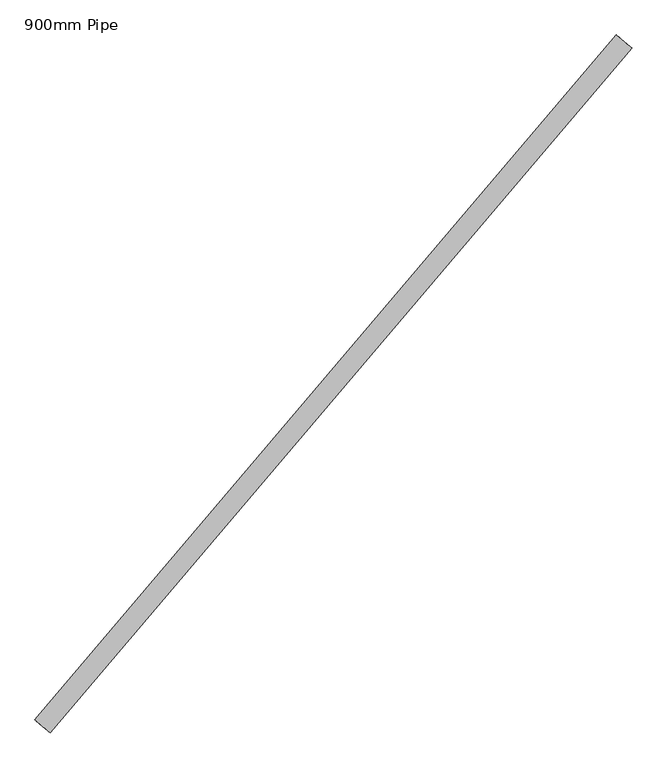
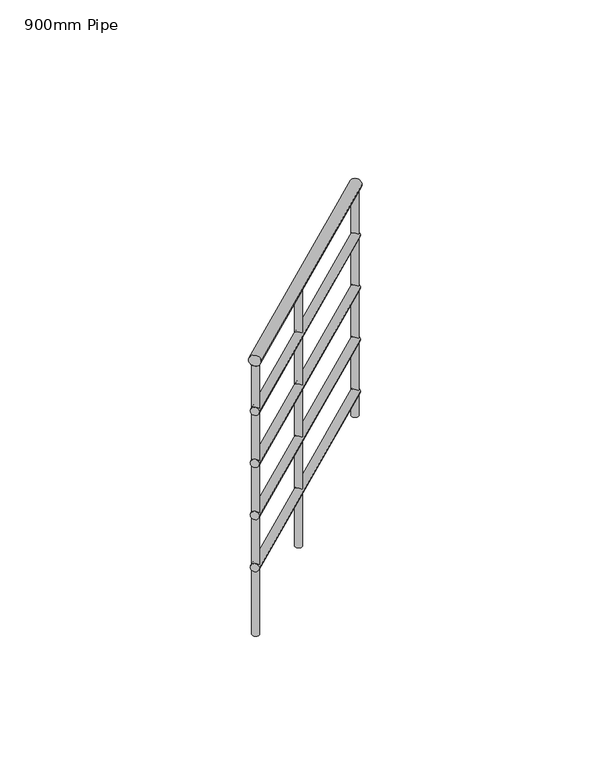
"""IFC4 building model written with IfcOpenShell, lengths in millimetres: railing geometry, 900mm Pipe."""

import ifcopenshell
import ifcopenshell.guid

model = None  # the IFC model being written
_history = None  # IfcOwnerHistory: only IFC2X3 demands one
_inside = {}  # id of a spatial element -> (the spatial element, [elements in it])
_under = {}  # id of a project, library or spatial element -> (it, [spatial elements below it])
_declared = {}  # id of a project -> (the project, [libraries it declares])
_typed = {}  # id of a type object -> (the type object, [elements of that type])
_made_of = {}  # id of a material, layer set ... -> (it, [elements and type objects made of it])


def new_model(schema):
    """Start an empty IFC model of exactly this schema.

    Asked for "IFC4X3", IfcOpenShell would pick the latest addendum, in which some entities
    have other attributes; the version numbers below select the first issue.
    IFC2X3 requires an IfcOwnerHistory on every rooted entity: one is made here for all.
    """
    global model, _history
    if schema == "IFC4X3":
        model = ifcopenshell.file(schema_version=(4, 3, 0, 0))
    else:
        model = ifcopenshell.file(schema=schema)
    _inside.clear()
    _under.clear()
    _declared.clear()
    _typed.clear()
    _made_of.clear()
    _history = None
    if model.schema == "IFC2X3":
        org = make("IfcOrganization", Name="unknown")
        user = make(
            "IfcPersonAndOrganization",
            ThePerson=make("IfcPerson", FamilyName="unknown"),
            TheOrganization=org,
        )
        app = make(
            "IfcApplication",
            ApplicationDeveloper=org,
            Version="unknown",
            ApplicationFullName="unknown",
            ApplicationIdentifier="unknown",
        )
        _history = make(
            "IfcOwnerHistory",
            OwningUser=user,
            OwningApplication=app,
            ChangeAction="ADDED",
            CreationDate=0,
        )
    return model


def make(cls, **values):
    """One entity of the class cls with the attributes given. An attribute that is None is left unset."""
    return model.create_entity(
        cls, **{name: value for name, value in values.items() if value is not None}
    )


def rooted(cls, **values):
    """An entity with a GlobalId (a new one), such as an element, a storey or a relation."""
    return make(cls, GlobalId=ifcopenshell.guid.new(), OwnerHistory=_history, **values)


def si_unit(unit_type, name, prefix=None):
    """IfcSIUnit, for example si_unit("LENGTHUNIT", "METRE", prefix="MILLI")."""
    return make("IfcSIUnit", UnitType=unit_type, Prefix=prefix, Name=name)


def assignment(units):
    """IfcUnitAssignment: the units of a project."""
    return None if units is None else make("IfcUnitAssignment", Units=units)


def point(xyz):
    """IfcCartesianPoint."""
    return None if xyz is None else make("IfcCartesianPoint", Coordinates=xyz)


def direction(xyz):
    """IfcDirection."""
    return None if xyz is None else make("IfcDirection", DirectionRatios=xyz)


def frame(location, z_axis=None, x_axis=None):
    """IfcAxis2Placement3D, a coordinate frame: its origin and axes. An axis left out is left unset."""
    return make(
        "IfcAxis2Placement3D",
        Location=point(location),
        Axis=direction(z_axis),
        RefDirection=direction(x_axis),
    )


def origin():
    """The frame at (0, 0, 0) with its axes left unset."""
    return frame((0.0, 0.0, 0.0))


def place(relative_to, where):
    """IfcLocalPlacement: puts the frame where relative to a parent placement (None: the world)."""
    return make(
        "IfcLocalPlacement", PlacementRelTo=relative_to, RelativePlacement=where
    )


def context(
    kind, dimensions, precision=None, world=None, true_north=None, identifier=None
):
    """IfcGeometricRepresentationContext, for example the 3D "Model" context."""
    return make(
        "IfcGeometricRepresentationContext",
        ContextIdentifier=identifier,
        ContextType=kind,
        CoordinateSpaceDimension=dimensions,
        Precision=precision,
        WorldCoordinateSystem=world,
        TrueNorth=true_north,
    )


def project(units=None, contexts=None):
    """IfcProject with its units and contexts."""
    return rooted(
        "IfcProject",
        Name="project",
        RepresentationContexts=contexts,
        UnitsInContext=assignment(units),
    )


def spatial(cls, under=None, at=None, **own):
    """A site, building, storey or space (cls), placed at a placement, below another one or the project."""
    s = rooted(cls, ObjectPlacement=at, **own)
    if under is not None:
        _under.setdefault(under.id(), (under, []))[1].append(s)
    return s


def circle_curve(where, radius):
    """IfcCircle in the frame where."""
    return make("IfcCircle", Position=where, Radius=radius)


def ellipse_curve(where, semi_axis1, semi_axis2):
    """IfcEllipse in the frame where."""
    return make(
        "IfcEllipse", Position=where, SemiAxis1=semi_axis1, SemiAxis2=semi_axis2
    )


def shape(context_of_items, identifier, shape_type, items):
    """IfcShapeRepresentation: the items that make up one representation, for example the "Body"."""
    return make(
        "IfcShapeRepresentation",
        ContextOfItems=context_of_items,
        RepresentationIdentifier=identifier,
        RepresentationType=shape_type,
        Items=items,
    )


def source(mapping_origin, context_of_items, identifier, shape_type, items):
    """IfcRepresentationMap: a shape defined once, which mapped items show again and again."""
    return make(
        "IfcRepresentationMap",
        MappingOrigin=mapping_origin,
        MappedRepresentation=shape(context_of_items, identifier, shape_type, items),
    )


def transform(
    local_origin,
    x_axis=None,
    y_axis=None,
    z_axis=None,
    scale=None,
    scale2=None,
    scale3=None,
    uniform=True,
):
    """IfcCartesianTransformationOperator3D, or its non-uniform kind. x_axis, y_axis, z_axis: its Axis1, 2, 3."""
    if uniform:
        return make(
            "IfcCartesianTransformationOperator3D",
            Axis1=direction(x_axis),
            Axis2=direction(y_axis),
            LocalOrigin=point(local_origin),
            Scale=scale,
            Axis3=direction(z_axis),
        )
    return make(
        "IfcCartesianTransformationOperator3DnonUniform",
        Axis1=direction(x_axis),
        Axis2=direction(y_axis),
        LocalOrigin=point(local_origin),
        Scale=scale,
        Axis3=direction(z_axis),
        Scale2=scale2,
        Scale3=scale3,
    )


def mapped(mapping_source, mapping_target):
    """IfcMappedItem: shows the shape of a source again, moved by a transform."""
    return make(
        "IfcMappedItem", MappingSource=mapping_source, MappingTarget=mapping_target
    )


def made_of(thing, what):
    """Note that an element or type object is made of a material, layer set ...; save() writes the relation."""
    if what is not None:
        _made_of.setdefault(what.id(), (what, []))[1].append(thing)
    return thing


def element(
    cls,
    number,
    at=None,
    inside=None,
    cuts=None,
    type_object=None,
    material=None,
    context=None,
    identifier="Body",
    shape_type=None,
    held_by="IfcProductDefinitionShape",
    body=None,
    shapes=None,
    **own,
):
    """One element of the class cls, such as IfcWall. Its Tag is "e" and its number.

    at: its placement. inside: the storey or other place that contains it. cuts: it is an
    opening in that element (IfcRelVoidsElement). A single representation is given by context,
    identifier, shape_type and body (its items); several are given by shapes. held_by: the class
    of the entity that holds the representations. save() writes the other relations.
    """
    e = rooted(cls, Tag="e%d" % number, ObjectPlacement=at, **own)
    if body is not None:
        shapes = [shape(context, identifier, shape_type, body)]
    if shapes is not None:
        e.Representation = make(held_by, Representations=shapes)
    if inside is not None:
        _inside.setdefault(inside.id(), (inside, []))[1].append(e)
    if cuts is not None:
        rooted(
            "IfcRelVoidsElement", RelatingBuildingElement=cuts, RelatedOpeningElement=e
        )
    if type_object is not None:
        _typed.setdefault(type_object.id(), (type_object, []))[1].append(e)
    return made_of(e, material)


def aggregate(whole, parts):
    """IfcRelAggregates: a whole, such as a stair, and the parts it consists of."""
    return rooted("IfcRelAggregates", RelatingObject=whole, RelatedObjects=parts)


def save(model, path):
    """Write the relations noted so far, then the file.

    IfcRelAggregates (storeys below a building ...), IfcRelContainedInSpatialStructure (elements
    in a storey), IfcRelDefinesByType, IfcRelAssociatesMaterial and IfcRelDeclares: one each for
    every whole, place, type object, material and project.
    """
    for whole, parts in _under.values():
        aggregate(whole, parts)
    for where, things in _inside.values():
        rooted(
            "IfcRelContainedInSpatialStructure",
            RelatedElements=things,
            RelatingStructure=where,
        )
    for kind, things in _typed.values():
        rooted("IfcRelDefinesByType", RelatedObjects=things, RelatingType=kind)
    for what, things in _made_of.values():
        rooted("IfcRelAssociatesMaterial", RelatedObjects=things, RelatingMaterial=what)
    for by, libraries in _declared.values():
        rooted("IfcRelDeclares", RelatingContext=by, RelatedDefinitions=libraries)
    model.write(path)


def plane_surface(at):
    """IfcPlane: the flat surface through the origin of the frame at, square to its z axis."""
    return make("IfcPlane", Position=at)


def cylinder_surface(at, radius):
    """IfcCylindricalSurface: all points at the distance radius from the z axis of the frame at."""
    return make("IfcCylindricalSurface", Position=at, Radius=radius)


def advanced_brep(points, edges, surfaces, faces):
    """IfcAdvancedBrep: a solid bounded by faces that lie on surfaces and meet in shared edges.

    An edge is (start, end): straight between two places in points (the first is 0);
    or (start, end, curve); or (start, end, curve, False) where it runs against its curve.
    A face is (place in surfaces, loops), or (place, loops, False) where it looks against
    its surface's normal. A loop lists edges by number (the first is 1), with a minus sign
    where the edge is run from its end to its start. The first loop is the outer one.
    """
    corners = [point(p) for p in points]
    vertices = [make("IfcVertexPoint", VertexGeometry=c) for c in corners]
    made = []
    for start, end, *more in edges:
        made.append(
            make(
                "IfcEdgeCurve",
                EdgeStart=vertices[start],
                EdgeEnd=vertices[end],
                EdgeGeometry=more[0] if more else make("IfcPolyline", Points=[corners[start], corners[end]]),
                SameSense=more[1] if len(more) > 1 else True,
            )
        )
    hull = []
    for where, loops, *sense in faces:
        bounds = []
        for j, loop in enumerate(loops):
            ring = [make("IfcOrientedEdge", EdgeElement=made[abs(k) - 1], Orientation=k > 0) for k in loop]
            bounds.append(
                make(
                    "IfcFaceOuterBound" if j == 0 else "IfcFaceBound",
                    Bound=make("IfcEdgeLoop", EdgeList=ring),
                    Orientation=True,
                )
            )
        hull.append(make("IfcAdvancedFace", Bounds=bounds, FaceSurface=surfaces[where], SameSense=sense[0] if sense else True))
    return make("IfcAdvancedBrep", Outer=make("IfcClosedShell", CfsFaces=hull))


def railing_900mm_pipe_1f6ac442(model_context):
    return source(origin(), model_context, "Body", "AdvancedBrep", [
        advanced_brep(
        [(808792.3017007, 58112.3351972, 2058.386247), (808822.7879845, 58086.4395122, 2058.386247), (807649.5041991, 56766.9508657, 2596.2686), (807679.9904828, 56741.0551806, 2596.2686)],
        [
            (0, 1, ellipse_curve(frame((808807.5448426, 58099.3873547, 2058.386247), z_axis=(0.6473921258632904, 0.7621570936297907, 0.0), x_axis=(0.0, 0.0, -1.0)), 20.9078706, 20.0)),
            (1, 0, ellipse_curve(frame((808807.5448426, 58099.3873547, 2058.386247), z_axis=(0.6473921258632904, 0.7621570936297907, 0.0), x_axis=(0.0, 0.0, -1.0)), 20.9078706, 20.0)),
            (2, 3, ellipse_curve(frame((807664.7473409, 56754.0030232, 2596.2686), z_axis=(-0.6473921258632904, -0.7621570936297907, 0.0), x_axis=(0.0, 0.0, -1.0)), 20.9078706, 20.0)),
            (3, 2, ellipse_curve(frame((807664.7473409, 56754.0030232, 2596.2686), z_axis=(-0.6473921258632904, -0.7621570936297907, 0.0), x_axis=(0.0, 0.0, -1.0)), 20.9078706, 20.0)),
            (1, 3),
            (2, 0),
        ],
        [
            plane_surface(frame((808807.5448426, 58099.3873547, 2079.2941176), z_axis=(0.6473921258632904, 0.7621570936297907, 0.0), x_axis=(0.7621570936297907, -0.6473921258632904, 0.0))),
            plane_surface(frame((807664.7473409, 56754.0030232, 2617.1764706), z_axis=(-0.6473921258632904, -0.7621570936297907, 0.0), x_axis=(0.7621570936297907, -0.6473921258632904, 0.0))),
            cylinder_surface(frame((808803.7708328, 58094.9443158, 2060.1625663), z_axis=(0.6192807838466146, 0.7290623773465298, -0.29147789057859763), x_axis=(0.7621570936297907, -0.6473921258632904, 0.0)), 20.0),
        ],
        [
            (0, [[1, 2]]),
            (1, [[3, 4]]),
            (2, [[-2, 5, -3, 6]]),
            (2, [[-1, -6, -4, -5]]),
        ],
    ),
        advanced_brep(
        [(808796.1124862, 58109.0982366, 1863.6132147), (808818.977199, 58089.6764728, 1863.6132147), (807653.3149845, 56763.713905, 2401.4955676), (807676.1796973, 56744.2921413, 2401.4955676)],
        [
            (0, 1, ellipse_curve(frame((808807.5448426, 58099.3873547, 1863.6132147), z_axis=(0.6473921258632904, 0.7621570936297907, 0.0), x_axis=(0.0, 0.0, -1.0)), 15.680903, 15.0)),
            (1, 0, ellipse_curve(frame((808807.5448426, 58099.3873547, 1863.6132147), z_axis=(0.6473921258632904, 0.7621570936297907, 0.0), x_axis=(0.0, 0.0, -1.0)), 15.680903, 15.0)),
            (2, 3, ellipse_curve(frame((807664.7473409, 56754.0030232, 2401.4955676), z_axis=(-0.6473921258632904, -0.7621570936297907, 0.0), x_axis=(0.0, 0.0, -1.0)), 15.680903, 15.0)),
            (3, 2, ellipse_curve(frame((807664.7473409, 56754.0030232, 2401.4955676), z_axis=(-0.6473921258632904, -0.7621570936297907, 0.0), x_axis=(0.0, 0.0, -1.0)), 15.680903, 15.0)),
            (0, 2),
            (3, 1),
        ],
        [
            plane_surface(frame((808807.5448426, 58099.3873547, 1879.2941176), z_axis=(0.6473921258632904, 0.7621570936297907, 0.0), x_axis=(0.7621570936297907, -0.6473921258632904, 0.0))),
            plane_surface(frame((807664.7473409, 56754.0030232, 2417.1764706), z_axis=(-0.6473921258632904, -0.7621570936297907, 0.0), x_axis=(0.7621570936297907, -0.6473921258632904, 0.0))),
            cylinder_surface(frame((808804.7143352, 58096.0550755, 1864.9454542), z_axis=(0.6192807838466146, 0.7290623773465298, -0.29147789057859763), x_axis=(0.7621570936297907, -0.6473921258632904, 0.0)), 15.0),
        ],
        [
            (0, [[1, 2]]),
            (1, [[3, 4]]),
            (2, [[-1, 5, -4, 6]]),
            (2, [[-2, -6, -3, -5]]),
        ],
    ),
        advanced_brep(
        [(808796.1124862, 58109.0982366, 1663.6132147), (808818.977199, 58089.6764728, 1663.6132147), (807653.3149845, 56763.713905, 2201.4955676), (807676.1796973, 56744.2921413, 2201.4955676)],
        [
            (0, 1, ellipse_curve(frame((808807.5448426, 58099.3873547, 1663.6132147), z_axis=(0.6473921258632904, 0.7621570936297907, 0.0), x_axis=(0.0, 0.0, -1.0)), 15.680903, 15.0)),
            (1, 0, ellipse_curve(frame((808807.5448426, 58099.3873547, 1663.6132147), z_axis=(0.6473921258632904, 0.7621570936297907, 0.0), x_axis=(0.0, 0.0, -1.0)), 15.680903, 15.0)),
            (2, 3, ellipse_curve(frame((807664.7473409, 56754.0030232, 2201.4955676), z_axis=(-0.6473921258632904, -0.7621570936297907, 0.0), x_axis=(0.0, 0.0, -1.0)), 15.680903, 15.0)),
            (3, 2, ellipse_curve(frame((807664.7473409, 56754.0030232, 2201.4955676), z_axis=(-0.6473921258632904, -0.7621570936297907, 0.0), x_axis=(0.0, 0.0, -1.0)), 15.680903, 15.0)),
            (0, 2),
            (3, 1),
        ],
        [
            plane_surface(frame((808807.5448426, 58099.3873547, 1679.2941176), z_axis=(0.6473921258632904, 0.7621570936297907, 0.0), x_axis=(0.7621570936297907, -0.6473921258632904, 0.0))),
            plane_surface(frame((807664.7473409, 56754.0030232, 2217.1764706), z_axis=(-0.6473921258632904, -0.7621570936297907, 0.0), x_axis=(0.7621570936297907, -0.6473921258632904, 0.0))),
            cylinder_surface(frame((808804.7143352, 58096.0550755, 1664.9454542), z_axis=(0.6192807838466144, 0.7290623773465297, -0.29147789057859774), x_axis=(0.7621570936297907, -0.6473921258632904, 0.0)), 15.0),
        ],
        [
            (0, [[1, 2]]),
            (1, [[3, 4]]),
            (2, [[-1, 5, -4, 6]]),
            (2, [[-2, -6, -3, -5]]),
        ],
    ),
        advanced_brep(
        [(808796.1124862, 58109.0982366, 1463.6132147), (808818.977199, 58089.6764728, 1463.6132147), (807653.3149845, 56763.713905, 2001.4955676), (807676.1796973, 56744.2921413, 2001.4955676)],
        [
            (0, 1, ellipse_curve(frame((808807.5448426, 58099.3873547, 1463.6132147), z_axis=(0.6473921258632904, 0.7621570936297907, 0.0), x_axis=(0.0, 0.0, -1.0)), 15.680903, 15.0)),
            (1, 0, ellipse_curve(frame((808807.5448426, 58099.3873547, 1463.6132147), z_axis=(0.6473921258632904, 0.7621570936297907, 0.0), x_axis=(0.0, 0.0, -1.0)), 15.680903, 15.0)),
            (2, 3, ellipse_curve(frame((807664.7473409, 56754.0030232, 2001.4955676), z_axis=(-0.6473921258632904, -0.7621570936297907, 0.0), x_axis=(0.0, 0.0, -1.0)), 15.680903, 15.0)),
            (3, 2, ellipse_curve(frame((807664.7473409, 56754.0030232, 2001.4955676), z_axis=(-0.6473921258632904, -0.7621570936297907, 0.0), x_axis=(0.0, 0.0, -1.0)), 15.680903, 15.0)),
            (0, 2),
            (3, 1),
        ],
        [
            plane_surface(frame((808807.5448426, 58099.3873547, 1479.2941176), z_axis=(0.6473921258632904, 0.7621570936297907, 0.0), x_axis=(0.7621570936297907, -0.6473921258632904, 0.0))),
            plane_surface(frame((807664.7473409, 56754.0030232, 2017.1764706), z_axis=(-0.6473921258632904, -0.7621570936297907, 0.0), x_axis=(0.7621570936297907, -0.6473921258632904, 0.0))),
            cylinder_surface(frame((808804.7143352, 58096.0550755, 1464.9454542), z_axis=(0.6192807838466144, 0.7290623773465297, -0.29147789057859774), x_axis=(0.7621570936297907, -0.6473921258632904, 0.0)), 15.0),
        ],
        [
            (0, [[1, 2]]),
            (1, [[3, 4]]),
            (2, [[-1, 5, -4, 6]]),
            (2, [[-2, -6, -3, -5]]),
        ],
    ),
        advanced_brep(
        [(808796.1124862, 58109.0982366, 1263.6132147), (808818.977199, 58089.6764728, 1263.6132147), (807653.3149845, 56763.713905, 1801.4955676), (807676.1796973, 56744.2921413, 1801.4955676)],
        [
            (0, 1, ellipse_curve(frame((808807.5448426, 58099.3873547, 1263.6132147), z_axis=(0.6473921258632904, 0.7621570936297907, 0.0), x_axis=(0.0, 0.0, -1.0)), 15.680903, 15.0)),
            (1, 0, ellipse_curve(frame((808807.5448426, 58099.3873547, 1263.6132147), z_axis=(0.6473921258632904, 0.7621570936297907, 0.0), x_axis=(0.0, 0.0, -1.0)), 15.680903, 15.0)),
            (2, 3, ellipse_curve(frame((807664.7473409, 56754.0030232, 1801.4955676), z_axis=(-0.6473921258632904, -0.7621570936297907, 0.0), x_axis=(0.0, 0.0, -1.0)), 15.680903, 15.0)),
            (3, 2, ellipse_curve(frame((807664.7473409, 56754.0030232, 1801.4955676), z_axis=(-0.6473921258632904, -0.7621570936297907, 0.0), x_axis=(0.0, 0.0, -1.0)), 15.680903, 15.0)),
            (0, 2),
            (3, 1),
        ],
        [
            plane_surface(frame((808807.5448426, 58099.3873547, 1279.2941176), z_axis=(0.6473921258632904, 0.7621570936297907, 0.0), x_axis=(0.7621570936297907, -0.6473921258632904, 0.0))),
            plane_surface(frame((807664.7473409, 56754.0030232, 1817.1764706), z_axis=(-0.6473921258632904, -0.7621570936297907, 0.0), x_axis=(0.7621570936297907, -0.6473921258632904, 0.0))),
            cylinder_surface(frame((808804.7143352, 58096.0550755, 1264.9454542), z_axis=(0.6192807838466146, 0.7290623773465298, -0.29147789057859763), x_axis=(0.7621570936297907, -0.6473921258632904, 0.0)), 15.0),
        ],
        [
            (0, [[1, 2]]),
            (1, [[3, 4]]),
            (2, [[-1, 5, -4, 6]]),
            (2, [[-2, -6, -3, -5]]),
        ],
    ),
        advanced_brep(
        [(808169.6796804, 57329.1378595, 2342.1874779), (808150.6257531, 57345.3226626, 2342.1874779), (808150.6257531, 57345.3226626, 1358.5882353), (808169.6796804, 57329.1378595, 1358.5882353)],
        [
            (0, 1, ellipse_curve(frame((808160.1527168, 57337.230261, 2342.1874779), z_axis=(-0.1887004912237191, -0.22215194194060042, -0.9565775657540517), x_axis=(-0.619280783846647, -0.729062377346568, 0.29147789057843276)), 13.0674191, 12.5)),
            (1, 2),
            (2, 3, circle_curve(frame((808160.1527168, 57337.230261, 1358.5882353), z_axis=(0.0, 0.0, 1.0), x_axis=(-0.7621570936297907, 0.6473921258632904, 0.0)), 12.5)),
            (3, 0),
            (3, 2, circle_curve(frame((808160.1527168, 57337.230261, 1358.5882353), z_axis=(0.0, 0.0, 1.0), x_axis=(-0.7621570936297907, 0.6473921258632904, 0.0)), 12.5)),
            (1, 0, ellipse_curve(frame((808160.1527168, 57337.230261, 2342.1874779), z_axis=(-0.1887004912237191, -0.22215194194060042, -0.9565775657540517), x_axis=(-0.619280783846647, -0.729062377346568, 0.29147789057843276)), 13.0674191, 12.5)),
        ],
        [
            cylinder_surface(frame((808160.1527168, 57337.230261, 1258.5882353), z_axis=(0.0, 0.0, 1.0), x_axis=(-0.7621570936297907, 0.6473921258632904, 0.0)), 12.5),
            plane_surface(frame((808124.9139863, 57334.3611368, 2349.8052054), z_axis=(0.1887004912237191, 0.22215194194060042, 0.9565775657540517), x_axis=(0.7621570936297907, -0.6473921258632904, 0.0))),
            plane_surface(frame((808157.2835926, 57372.4689915, 1358.5882353), z_axis=(0.0, 0.0, -1.0), x_axis=(0.7621570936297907, -0.6473921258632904, 0.0))),
        ],
        [
            (0, [[1, 2, 3, 4]]),
            (0, [[5, -2, 6, -4]]),
            (1, [[-6, -1]]),
            (2, [[-5, -3]]),
        ],
    ),
        advanced_brep(
        [(807682.3667062, 56755.4375853, 2571.5518655), (807663.3127788, 56771.6223884, 2571.5518655), (807663.3127788, 56771.6223884, 1537.8823529), (807682.3667062, 56755.4375853, 1537.8823529)],
        [
            (0, 1, ellipse_curve(frame((807672.8397425, 56763.5299868, 2571.5518655), z_axis=(-0.18870049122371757, -0.2221519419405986, -0.9565775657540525), x_axis=(-0.6192807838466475, -0.7290623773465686, 0.2914778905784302)), 13.0674191, 12.5)),
            (1, 2),
            (2, 3, circle_curve(frame((807672.8397425, 56763.5299868, 1537.8823529), z_axis=(0.0, 0.0, 1.0), x_axis=(-0.7621570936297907, 0.6473921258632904, 0.0)), 12.5)),
            (3, 0),
            (3, 2, circle_curve(frame((807672.8397425, 56763.5299868, 1537.8823529), z_axis=(0.0, 0.0, 1.0), x_axis=(-0.7621570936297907, 0.6473921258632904, 0.0)), 12.5)),
            (1, 0, ellipse_curve(frame((807672.8397425, 56763.5299868, 2571.5518655), z_axis=(-0.18870049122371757, -0.2221519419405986, -0.9565775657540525), x_axis=(-0.6192807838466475, -0.7290623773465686, 0.2914778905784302)), 13.0674191, 12.5)),
        ],
        [
            cylinder_surface(frame((807672.8397425, 56763.5299868, 1437.8823529), z_axis=(0.0, 0.0, 1.0), x_axis=(-0.7621570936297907, 0.6473921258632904, 0.0)), 12.5),
            plane_surface(frame((807637.601012, 56760.6608626, 2579.1695931), z_axis=(0.18870049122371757, 0.2221519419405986, 0.9565775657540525), x_axis=(0.7621570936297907, -0.6473921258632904, 0.0))),
            plane_surface(frame((807669.9706183, 56798.7687173, 1537.8823529), z_axis=(0.0, 0.0, -1.0), x_axis=(0.7621570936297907, -0.6473921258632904, 0.0))),
        ],
        [
            (0, [[1, 2, 3, 4]]),
            (0, [[5, -2, 6, -4]]),
            (1, [[-6, -1]]),
            (2, [[-5, -3]]),
        ],
    ),
        advanced_brep(
        [(808808.9794047, 58081.7679894, 2041.2872401), (808789.9254774, 58097.9527926, 2041.2872401), (808789.9254774, 58097.9527926, 1179.2941176), (808808.9794047, 58081.7679894, 1179.2941176)],
        [
            (0, 1, ellipse_curve(frame((808799.452441, 58089.860391, 2041.2872401), z_axis=(-0.1887004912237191, -0.22215194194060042, -0.9565775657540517), x_axis=(-0.619280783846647, -0.729062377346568, 0.29147789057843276)), 13.0674191, 12.5)),
            (1, 2),
            (2, 3, circle_curve(frame((808799.452441, 58089.860391, 1179.2941176), z_axis=(0.0, 0.0, 1.0), x_axis=(-0.7621570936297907, 0.6473921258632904, 0.0)), 12.5)),
            (3, 0),
            (3, 2, circle_curve(frame((808799.452441, 58089.860391, 1179.2941176), z_axis=(0.0, 0.0, 1.0), x_axis=(-0.7621570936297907, 0.6473921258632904, 0.0)), 12.5)),
            (1, 0, ellipse_curve(frame((808799.452441, 58089.860391, 2041.2872401), z_axis=(-0.1887004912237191, -0.22215194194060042, -0.9565775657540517), x_axis=(-0.619280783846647, -0.729062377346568, 0.29147789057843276)), 13.0674191, 12.5)),
        ],
        [
            cylinder_surface(frame((808799.452441, 58089.860391, 1079.2941176), z_axis=(0.0, 0.0, 1.0), x_axis=(-0.7621570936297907, 0.6473921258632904, 0.0)), 12.5),
            plane_surface(frame((808764.2137106, 58086.9912668, 2048.9049677), z_axis=(0.1887004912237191, 0.22215194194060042, 0.9565775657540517), x_axis=(0.7621570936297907, -0.6473921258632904, 0.0))),
            plane_surface(frame((808796.5833169, 58125.0991215, 1179.2941176), z_axis=(0.0, 0.0, -1.0), x_axis=(0.7621570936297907, -0.6473921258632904, 0.0))),
        ],
        [
            (0, [[1, 2, 3, 4]]),
            (0, [[5, -2, 6, -4]]),
            (1, [[-6, -1]]),
            (2, [[-5, -3]]),
        ],
    ),
    ])


if __name__ == "__main__":
    model = new_model("IFC4")
    model_context = context("Model", 3, world=origin())
    ifc_project = project(units=[si_unit("LENGTHUNIT", "METRE", prefix="MILLI")], contexts=[model_context])
    site = spatial("IfcSite", under=ifc_project)
    building = spatial("IfcBuilding", under=site)
    placement = place(None, origin())
    railing_900mm_pipe_shape = railing_900mm_pipe_1f6ac442(model_context)
    element("IfcRailing", 1, ObjectType="900mm Pipe", at=placement, inside=building, context=model_context, shape_type="MappedRepresentation", body=[
        mapped(railing_900mm_pipe_shape, transform((0.0, 0.0, 0.0), x_axis=(1.0, 0.0, 0.0), y_axis=(0.0, 1.0, 0.0), z_axis=(0.0, 0.0, 1.0))),
    ])
    save(model, "model.ifc")
